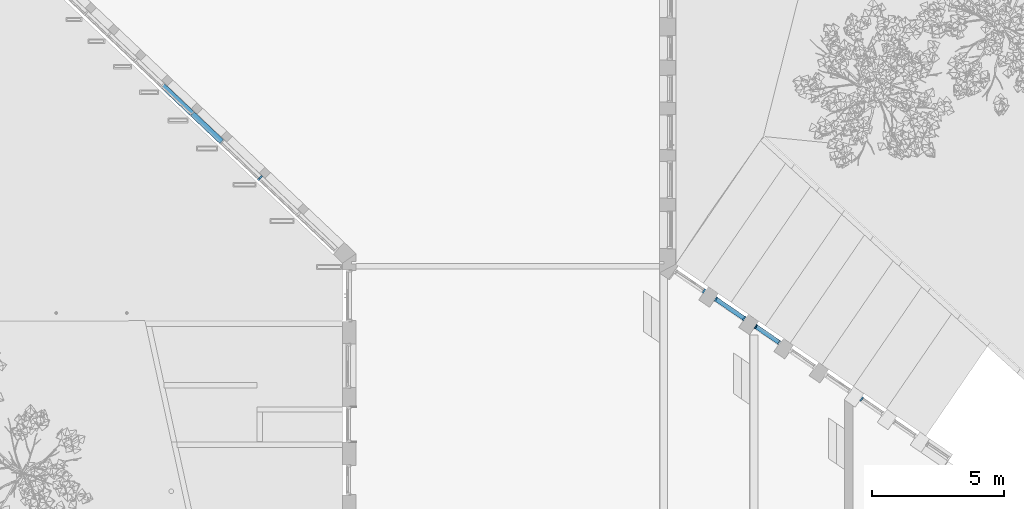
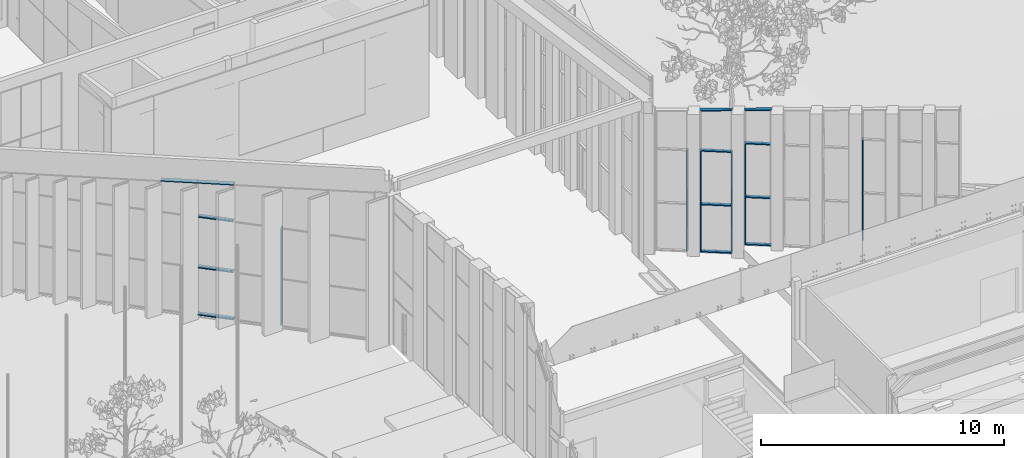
# One storey, part 8 of 246: 25 members, 5 elements without a shape of their own.
"""IFC2X3 building model written with IfcOpenShell, lengths in millimetres."""

import ifcopenshell
import ifcopenshell.guid

model = None  # the IFC model being written
_history = None  # IfcOwnerHistory: only IFC2X3 demands one
_inside = {}  # id of a spatial element -> (the spatial element, [elements in it])
_under = {}  # id of a project, library or spatial element -> (it, [spatial elements below it])
_declared = {}  # id of a project -> (the project, [libraries it declares])
_typed = {}  # id of a type object -> (the type object, [elements of that type])
_made_of = {}  # id of a material, layer set ... -> (it, [elements and type objects made of it])


def new_model(schema):
    """Start an empty IFC model of exactly this schema.

    Asked for "IFC4X3", IfcOpenShell would pick the latest addendum, in which some entities
    have other attributes; the version numbers below select the first issue.
    IFC2X3 requires an IfcOwnerHistory on every rooted entity: one is made here for all.
    """
    global model, _history
    if schema == "IFC4X3":
        model = ifcopenshell.file(schema_version=(4, 3, 0, 0))
    else:
        model = ifcopenshell.file(schema=schema)
    _inside.clear()
    _under.clear()
    _declared.clear()
    _typed.clear()
    _made_of.clear()
    _history = None
    if model.schema == "IFC2X3":
        org = make("IfcOrganization", Name="unknown")
        user = make(
            "IfcPersonAndOrganization",
            ThePerson=make("IfcPerson", FamilyName="unknown"),
            TheOrganization=org,
        )
        app = make(
            "IfcApplication",
            ApplicationDeveloper=org,
            Version="unknown",
            ApplicationFullName="unknown",
            ApplicationIdentifier="unknown",
        )
        _history = make(
            "IfcOwnerHistory",
            OwningUser=user,
            OwningApplication=app,
            ChangeAction="ADDED",
            CreationDate=0,
        )
    return model


def make(cls, **values):
    """One entity of the class cls with the attributes given. An attribute that is None is left unset."""
    return model.create_entity(
        cls, **{name: value for name, value in values.items() if value is not None}
    )


def entity(cls, *values):
    """Any entity or typed value of the class cls, its attributes in the order of the schema. None: left unset."""
    e = model.create_entity(cls)
    for i, value in enumerate(values):
        if value is not None:
            e[i] = value
    return e


def rooted(cls, **values):
    """An entity with a GlobalId (a new one), such as an element, a storey or a relation."""
    return make(cls, GlobalId=ifcopenshell.guid.new(), OwnerHistory=_history, **values)


def si_unit(unit_type, name, prefix=None):
    """IfcSIUnit, for example si_unit("LENGTHUNIT", "METRE", prefix="MILLI")."""
    return make("IfcSIUnit", UnitType=unit_type, Prefix=prefix, Name=name)


def converted_unit(unit_type, name, factor, base, dimensions=None, offset=None):
    """IfcConversionBasedUnit, such as the inch: factor (a typed value) times the base unit."""
    return make(
        "IfcConversionBasedUnit"
        if offset is None
        else "IfcConversionBasedUnitWithOffset",
        ConversionOffset=offset,
        Dimensions=None
        if dimensions is None
        else entity("IfcDimensionalExponents", *dimensions),
        UnitType=unit_type,
        Name=name,
        ConversionFactor=make(
            "IfcMeasureWithUnit", ValueComponent=factor, UnitComponent=base
        ),
    )


def derived_unit(unit_type, elements):
    """IfcDerivedUnit: a product of units, each with its exponent."""
    return make(
        "IfcDerivedUnit",
        Elements=[
            make("IfcDerivedUnitElement", Unit=unit, Exponent=power)
            for unit, power in elements
        ],
        UnitType=unit_type,
    )


def money_unit(currency):
    """IfcMonetaryUnit."""
    return make("IfcMonetaryUnit", Currency=currency)


def assignment(units):
    """IfcUnitAssignment: the units of a project."""
    return None if units is None else make("IfcUnitAssignment", Units=units)


def point(xyz):
    """IfcCartesianPoint."""
    return None if xyz is None else make("IfcCartesianPoint", Coordinates=xyz)


def direction(xyz):
    """IfcDirection."""
    return None if xyz is None else make("IfcDirection", DirectionRatios=xyz)


def frame(location, z_axis=None, x_axis=None):
    """IfcAxis2Placement3D, a coordinate frame: its origin and axes. An axis left out is left unset."""
    return make(
        "IfcAxis2Placement3D",
        Location=point(location),
        Axis=direction(z_axis),
        RefDirection=direction(x_axis),
    )


def origin_with_axes():
    """The frame at (0, 0, 0) with the z axis (0, 0, 1) and the x axis (1, 0, 0) written out."""
    return frame((0.0, 0.0, 0.0), z_axis=(0.0, 0.0, 1.0), x_axis=(1.0, 0.0, 0.0))


def place(relative_to, where):
    """IfcLocalPlacement: puts the frame where relative to a parent placement (None: the world)."""
    return make(
        "IfcLocalPlacement", PlacementRelTo=relative_to, RelativePlacement=where
    )


def context(
    kind, dimensions, precision=None, world=None, true_north=None, identifier=None
):
    """IfcGeometricRepresentationContext, for example the 3D "Model" context."""
    return make(
        "IfcGeometricRepresentationContext",
        ContextIdentifier=identifier,
        ContextType=kind,
        CoordinateSpaceDimension=dimensions,
        Precision=precision,
        WorldCoordinateSystem=world,
        TrueNorth=true_north,
    )


def subcontext(parent, identifier, kind, view, scale=None):
    """IfcGeometricRepresentationSubContext, for example "Body" below "Model"."""
    return make(
        "IfcGeometricRepresentationSubContext",
        ContextIdentifier=identifier,
        ContextType=kind,
        ParentContext=parent,
        TargetScale=scale,
        TargetView=view,
    )


def project(units=None, contexts=None):
    """IfcProject with its units and contexts."""
    return rooted(
        "IfcProject",
        Name="project",
        RepresentationContexts=contexts,
        UnitsInContext=assignment(units),
    )


def spatial(cls, under=None, at=None, **own):
    """A site, building, storey or space (cls), placed at a placement, below another one or the project."""
    s = rooted(cls, ObjectPlacement=at, **own)
    if under is not None:
        _under.setdefault(under.id(), (under, []))[1].append(s)
    return s


def faces_of(points, faces, orient=None, outer=None):
    """IfcFace entities. A face is a list of loops; a loop is a list of indices into points, from 0.

    orient and outer hold one flag for each loop. By default every Orientation is true, the
    first loop of a face is its IfcFaceOuterBound and the others are IfcFaceBound.
    """
    made = []
    for i, loops in enumerate(faces):
        bounds = []
        for j, loop in enumerate(loops):
            is_outer = j == 0 if outer is None else outer[i][j]
            bounds.append(
                make(
                    "IfcFaceOuterBound" if is_outer else "IfcFaceBound",
                    Bound=make("IfcPolyLoop", Polygon=[points[k] for k in loop]),
                    Orientation=True if orient is None else orient[i][j],
                )
            )
        made.append(make("IfcFace", Bounds=bounds))
    return made


def faceted_brep(points, faces, orient=None, outer=None, voids=None):
    """IfcFacetedBrep: a solid bounded by flat faces; with voids (closed shells), ...WithVoids."""
    shared = [point(p) for p in points]
    hull = make("IfcClosedShell", CfsFaces=faces_of(shared, faces, orient, outer))
    if voids is None:
        return make("IfcFacetedBrep", Outer=hull)
    return make(
        "IfcFacetedBrepWithVoids",
        Outer=hull,
        Voids=[
            make(cls, CfsFaces=faces_of(shared, fs, o, b)) for cls, fs, o, b in voids
        ],
    )


def shape(context_of_items, identifier, shape_type, items):
    """IfcShapeRepresentation: the items that make up one representation, for example the "Body"."""
    return make(
        "IfcShapeRepresentation",
        ContextOfItems=context_of_items,
        RepresentationIdentifier=identifier,
        RepresentationType=shape_type,
        Items=items,
    )


def source(mapping_origin, context_of_items, identifier, shape_type, items):
    """IfcRepresentationMap: a shape defined once, which mapped items show again and again."""
    return make(
        "IfcRepresentationMap",
        MappingOrigin=mapping_origin,
        MappedRepresentation=shape(context_of_items, identifier, shape_type, items),
    )


def transform(
    local_origin,
    x_axis=None,
    y_axis=None,
    z_axis=None,
    scale=None,
    scale2=None,
    scale3=None,
    uniform=True,
):
    """IfcCartesianTransformationOperator3D, or its non-uniform kind. x_axis, y_axis, z_axis: its Axis1, 2, 3."""
    if uniform:
        return make(
            "IfcCartesianTransformationOperator3D",
            Axis1=direction(x_axis),
            Axis2=direction(y_axis),
            LocalOrigin=point(local_origin),
            Scale=scale,
            Axis3=direction(z_axis),
        )
    return make(
        "IfcCartesianTransformationOperator3DnonUniform",
        Axis1=direction(x_axis),
        Axis2=direction(y_axis),
        LocalOrigin=point(local_origin),
        Scale=scale,
        Axis3=direction(z_axis),
        Scale2=scale2,
        Scale3=scale3,
    )


def mapped(mapping_source, mapping_target):
    """IfcMappedItem: shows the shape of a source again, moved by a transform."""
    return make(
        "IfcMappedItem", MappingSource=mapping_source, MappingTarget=mapping_target
    )


def material(Name=None, Category=None):
    """IfcMaterial."""
    return make("IfcMaterial", Name=Name, Category=Category)


def made_of(thing, what):
    """Note that an element or type object is made of a material, layer set ...; save() writes the relation."""
    if what is not None:
        _made_of.setdefault(what.id(), (what, []))[1].append(thing)
    return thing


def type_object(cls, material=None, **own):
    """A type object (cls), such as IfcWallType, which elements share."""
    return made_of(rooted(cls, **own), material)


def element(
    cls,
    number,
    at=None,
    inside=None,
    cuts=None,
    type_object=None,
    material=None,
    context=None,
    identifier="Body",
    shape_type=None,
    held_by="IfcProductDefinitionShape",
    body=None,
    shapes=None,
    **own,
):
    """One element of the class cls, such as IfcWall. Its Tag is "e" and its number.

    at: its placement. inside: the storey or other place that contains it. cuts: it is an
    opening in that element (IfcRelVoidsElement). A single representation is given by context,
    identifier, shape_type and body (its items); several are given by shapes. held_by: the class
    of the entity that holds the representations. save() writes the other relations.
    """
    e = rooted(cls, Tag="e%d" % number, ObjectPlacement=at, **own)
    if body is not None:
        shapes = [shape(context, identifier, shape_type, body)]
    if shapes is not None:
        e.Representation = make(held_by, Representations=shapes)
    if inside is not None:
        _inside.setdefault(inside.id(), (inside, []))[1].append(e)
    if cuts is not None:
        rooted(
            "IfcRelVoidsElement", RelatingBuildingElement=cuts, RelatedOpeningElement=e
        )
    if type_object is not None:
        _typed.setdefault(type_object.id(), (type_object, []))[1].append(e)
    return made_of(e, material)


def aggregate(whole, parts):
    """IfcRelAggregates: a whole, such as a stair, and the parts it consists of."""
    return rooted("IfcRelAggregates", RelatingObject=whole, RelatedObjects=parts)


def save(model, path):
    """Write the relations noted so far, then the file.

    IfcRelAggregates (storeys below a building ...), IfcRelContainedInSpatialStructure (elements
    in a storey), IfcRelDefinesByType, IfcRelAssociatesMaterial and IfcRelDeclares: one each for
    every whole, place, type object, material and project.
    """
    for whole, parts in _under.values():
        aggregate(whole, parts)
    for where, things in _inside.values():
        rooted(
            "IfcRelContainedInSpatialStructure",
            RelatedElements=things,
            RelatingStructure=where,
        )
    for kind, things in _typed.values():
        rooted("IfcRelDefinesByType", RelatedObjects=things, RelatingType=kind)
    for what, things in _made_of.values():
        rooted("IfcRelAssociatesMaterial", RelatedObjects=things, RelatingMaterial=what)
    for by, libraries in _declared.values():
        rooted("IfcRelDeclares", RelatingContext=by, RelatedDefinitions=libraries)
    model.write(path)


model = new_model("IFC2X3")

# Units and contexts
model_context = context("Model", 3, precision=0.01, world=origin_with_axes(), true_north=direction((0.0, 1.0)))
body_context = subcontext(model_context, "Body", "Model", "MODEL_VIEW")
ifc_project = project(units=[si_unit("LENGTHUNIT", "METRE", prefix="MILLI"), si_unit("AREAUNIT", "SQUARE_METRE"), si_unit("VOLUMEUNIT", "CUBIC_METRE"), converted_unit("PLANEANGLEUNIT", "DEGREE", entity("IfcPlaneAngleMeasure", 0.0174532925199), si_unit("PLANEANGLEUNIT", "RADIAN"), dimensions=[0, 0, 0, 0, 0, 0, 0]), si_unit("SOLIDANGLEUNIT", "STERADIAN"), money_unit("EUR"), converted_unit("TIMEUNIT", "Year", entity("IfcTimeMeasure", 31556926.0), si_unit("TIMEUNIT", "SECOND"), dimensions=[0, 0, 1, 0, 0, 0, 0]), si_unit("MASSUNIT", "GRAM", prefix="KILO"), si_unit("THERMODYNAMICTEMPERATUREUNIT", "DEGREE_CELSIUS"), si_unit("LUMINOUSINTENSITYUNIT", "LUMEN"), si_unit("ENERGYUNIT", "JOULE", prefix="MEGA"), derived_unit("THERMALCONDUCTANCEUNIT", [(si_unit("POWERUNIT", "WATT"), 1), (si_unit("LENGTHUNIT", "METRE"), -1), (si_unit("THERMODYNAMICTEMPERATUREUNIT", "KELVIN"), -1)]), derived_unit("SPECIFICHEATCAPACITYUNIT", [(si_unit("ENERGYUNIT", "JOULE"), 1), (si_unit("MASSUNIT", "GRAM", prefix="KILO"), -1), (si_unit("THERMODYNAMICTEMPERATUREUNIT", "KELVIN"), -1)]), derived_unit("MASSDENSITYUNIT", [(si_unit("MASSUNIT", "GRAM", prefix="KILO"), 1), (si_unit("VOLUMEUNIT", "CUBIC_METRE"), -1)])], contexts=[model_context])

# Site, building, storey
site_placement = place(None, origin_with_axes())
site = spatial("IfcSite", under=ifc_project, at=site_placement, Name="L.Koidula tn 11b", CompositionType="ELEMENT")
building_placement = place(site_placement, origin_with_axes())
building = spatial("IfcBuilding", under=site, at=building_placement, Name="Rakvere Riigigümnaasium", CompositionType="ELEMENT")
storey_placement = place(building_placement, origin_with_axes())
storey = spatial("IfcBuildingStorey", under=building, at=storey_placement, Name="1.korrus 0,00", CompositionType="ELEMENT", Elevation=0.0)

# Curtain wall, member
curtain_wall_type = type_object("IfcCurtainWallType", Name="Curtain Wall Type", PredefinedType="NOTDEFINED")
curtain_wall_1_placement = place(storey_placement, frame((48188.9005026, 43426.6609741, 465.0), z_axis=(0.0, 0.0, 1.0), x_axis=(1.0, 0.0, 0.0)))
curtain_wall_1 = element("IfcCurtainWall", 1, at=curtain_wall_1_placement, inside=storey, type_object=curtain_wall_type, Name="KLF-06-29")
ifc_material = material(Name="Alumiiniumprofiil (RAL 7021)")
member_type_1 = type_object("IfcMemberType", Name="Boundary Frame 50 x 170", PredefinedType="MULLION")
shared_shape_1 = source(origin_with_axes(), body_context, "Body", "Brep", [
    faceted_brep([(-37.0, -26.0, 2700.00000012), (-50.0, -26.0, 2700.00000012), (-50.0, -124.0, 2700.00000012), (0.0, -124.0, 2700.00000012), (0.0, 46.0, 2700.00000012), (-50.0, 46.0, 2700.00000012), (-50.0, 26.0, 2700.00000012), (-37.0, 26.0, 2700.00000012), (-37.0, -26.0, -5.18836085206e-07), (-50.0, -26.0, -5.18836307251e-07), (-50.0, -124.0, -5.18836307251e-07), (0.0, -124.0, -5.18836307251e-07), (0.0, 46.0, -5.18836307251e-07), (-50.0, 46.0, -5.18836307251e-07), (-50.0, 26.0, -5.18836307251e-07), (-37.0, 26.0, -5.18836085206e-07)], [[[0, 1, 2, 3, 4, 5, 6, 7]], [[0, 8, 9, 1]], [[9, 10, 2, 1]], [[10, 11, 3, 2]], [[11, 12, 4, 3]], [[12, 13, 5, 4]], [[6, 5, 13, 14]], [[14, 15, 7, 6]], [[7, 15, 8, 0]], [[8, 15, 14, 13, 12, 11, 10, 9]]]),
])
member_1_placement = place(curtain_wall_1_placement, frame((552.526325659, -378.965134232, 2400.0), z_axis=(6.40241900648e-09, -4.39127253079e-09, 1.0), x_axis=(-0.824666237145, 0.565619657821, 7.76364885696e-09)))
member_1 = element("IfcMember", 2, at=member_1_placement, type_object=member_type_1, material=ifc_material, Name="KLF-06-48-Profiilid", ObjectType="MULLION", context=body_context, shape_type="MappedRepresentation", body=[
    mapped(shared_shape_1, transform((0.0, 0.0, 0.0), x_axis=(-1.0, 0.0, 7.76364885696e-09), y_axis=(0.0, -1.0, 0.0), z_axis=(7.76364885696e-09, 0.0, 1.0))),
])

curtain_wall_2_placement = place(storey_placement, frame((49706.2862445, 42385.9208959, 465.0), z_axis=(0.0, 0.0, 1.0), x_axis=(1.0, 0.0, 0.0)))
curtain_wall_2 = element("IfcCurtainWall", 3, at=curtain_wall_2_placement, inside=storey, type_object=curtain_wall_type, Name="KLF-06-28")
member_2_placement = place(curtain_wall_2_placement, frame((552.526402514, -378.965186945, 2400.0), z_axis=(-1.36704027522e-08, 9.37621404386e-09, 1.0), x_axis=(-0.824666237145, 0.565619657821, -1.6576890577e-08)))
member_2 = element("IfcMember", 4, at=member_2_placement, type_object=member_type_1, material=ifc_material, Name="KLF-06-46-Profiilid", ObjectType="MULLION", context=body_context, shape_type="MappedRepresentation", body=[
    mapped(shared_shape_1, transform((0.0, 0.0, 0.0), x_axis=(-1.0, 0.0, -1.6576890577e-08), y_axis=(0.0, -1.0, 0.0), z_axis=(-1.6576890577e-08, 0.0, 1.0))),
])

curtain_wall_3_placement = place(storey_placement, frame((51132.8497103, 41407.4731801, 929.821783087), z_axis=(0.0, 0.0, 1.0), x_axis=(1.0, 0.0, 0.0)))
curtain_wall_3 = element("IfcCurtainWall", 5, at=curtain_wall_3_placement, inside=storey, type_object=curtain_wall_type, Name="KLF-06-27")
member_3_placement = place(curtain_wall_3_placement, frame((-461.812964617, 316.746920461, 5100.0000654), z_axis=(-3.11455329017e-08, 2.1362004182e-08, -1.0), x_axis=(0.824666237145, -0.565619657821, -3.77674389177e-08)))
member_3 = element("IfcMember", 6, at=member_3_placement, type_object=member_type_1, material=ifc_material, Name="KLF-06-49-Profiilid", ObjectType="MULLION", context=body_context, shape_type="MappedRepresentation", body=[
    mapped(shared_shape_1, transform((0.0, 0.0, 0.0), x_axis=(-1.0, 0.0, 3.77674387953e-08), y_axis=(0.0, -1.0, 0.0), z_axis=(3.77674387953e-08, 0.0, 1.0))),
])

# Member
shared_shape_2 = source(origin_with_axes(), body_context, "Body", "Brep", [
    faceted_brep([(-37.0, -26.0, 2400.00000019), (-50.0, -26.0, 2400.00000019), (-50.0, -124.0, 2400.00000019), (0.0, -124.0, 2400.00000019), (0.0, 46.0, 2400.00000019), (-50.0, 46.0, 2400.00000019), (-50.0, 26.0, 2400.00000019), (-37.0, 26.0, 2400.00000019), (-37.0, -26.0, 37.0), (-50.0, -26.0, 50.0), (-50.0, -124.0, 50.0), (0.0, -124.0, 0.0), (0.0, 46.0, 0.0), (-50.0, 46.0, 50.0), (-50.0, 26.0, 50.0), (-37.0, 26.0, 37.0)], [[[0, 1, 2, 3, 4, 5, 6, 7]], [[0, 8, 9, 1]], [[9, 10, 2, 1]], [[2, 10, 11, 3]], [[3, 11, 12, 4]], [[4, 12, 13, 5]], [[6, 5, 13, 14]], [[14, 15, 7, 6]], [[7, 15, 8, 0]], [[8, 15, 14, 13, 12, 11, 10, 9]]]),
])
member_4_placement = place(curtain_wall_1_placement, frame((552.526325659, -378.965134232, 0.0), z_axis=(0.0, 0.0, 1.0), x_axis=(-0.824666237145, 0.565619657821, 0.0)))
member_4 = element("IfcMember", 7, at=member_4_placement, type_object=member_type_1, material=ifc_material, Name="KLF-06-47-Profiilid", ObjectType="MULLION", context=body_context, shape_type="MappedRepresentation", body=[
    mapped(shared_shape_2, transform((0.0, 0.0, 0.0), x_axis=(-1.0, 0.0, 0.0), y_axis=(0.0, -1.0, 0.0), z_axis=(0.0, 0.0, 1.0))),
])

aggregate(curtain_wall_1, [member_1, member_4])

member_5_placement = place(curtain_wall_2_placement, frame((552.526402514, -378.965186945, 0.0), z_axis=(0.0, 0.0, 1.0), x_axis=(-0.824666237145, 0.565619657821, 0.0)))
member_5 = element("IfcMember", 8, at=member_5_placement, type_object=member_type_1, material=ifc_material, Name="KLF-06-45-Profiilid", ObjectType="MULLION", context=body_context, shape_type="MappedRepresentation", body=[
    mapped(shared_shape_2, transform((0.0, 0.0, 0.0), x_axis=(-1.0, 0.0, 0.0), y_axis=(0.0, -1.0, 0.0), z_axis=(0.0, 0.0, 1.0))),
])

shared_shape_3 = source(origin_with_axes(), body_context, "Body", "Brep", [
    faceted_brep([(-37.0, -26.0, 2362.99999837), (-50.0, -26.0, 2349.99999779), (-50.0, -124.0, 2349.99999779), (0.0, -124.0, 2400.0), (0.0, 46.0, 2400.0), (-50.0, 46.0, 2349.99999779), (-50.0, 26.0, 2349.99999779), (-37.0, 26.0, 2362.99999837), (-37.0, -26.0, -1.22574839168e-07), (-50.0, -26.0, -1.22575061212e-07), (-50.0, -124.0, -1.22575061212e-07), (0.0, -124.0, -1.22575061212e-07), (0.0, 46.0, -1.22575061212e-07), (-50.0, 46.0, -1.22575061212e-07), (-50.0, 26.0, -1.22575061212e-07), (-37.0, 26.0, -1.22574839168e-07)], [[[0, 1, 2, 3, 4, 5, 6, 7]], [[0, 8, 9, 1]], [[9, 10, 2, 1]], [[10, 11, 3, 2]], [[11, 12, 4, 3]], [[12, 13, 5, 4]], [[6, 5, 13, 14]], [[14, 15, 7, 6]], [[7, 15, 8, 0]], [[8, 15, 14, 13, 12, 11, 10, 9]]]),
])
member_6_placement = place(curtain_wall_3_placement, frame((-461.81304871, 316.746978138, 2400.0000654), z_axis=(-3.50387235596e-08, 2.40322570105e-08, -1.0), x_axis=(0.824666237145, -0.565619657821, -4.24883692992e-08)))
member_6 = element("IfcMember", 9, at=member_6_placement, type_object=member_type_1, material=ifc_material, Name="KLF-06-50-Profiilid", ObjectType="MULLION", context=body_context, shape_type="MappedRepresentation", body=[
    mapped(shared_shape_3, transform((0.0, 0.0, 0.0), x_axis=(-1.0, 0.0, 4.24883691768e-08), y_axis=(0.0, -1.0, 0.0), z_axis=(4.24883691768e-08, 0.0, 1.0))),
])

# Curtain wall, members
curtain_wall_4_placement = place(storey_placement, frame((33997.0353268, 45217.6604975, 0.0), z_axis=(0.0, 0.0, 1.0), x_axis=(1.0, 0.0, 0.0)))
curtain_wall_4 = element("IfcCurtainWall", 10, at=curtain_wall_4_placement, inside=storey, type_object=curtain_wall_type, Name="KLF-02")
member_type_2 = type_object("IfcMemberType", Name="Mullion Frame 50 x 210", PredefinedType="MULLION")
shared_shape_4 = source(origin_with_axes(), body_context, "Body", "Brep", [
    faceted_brep([(12.0, -26.0, 2550.0), (12.0, 26.0, 2550.0), (25.0, 26.0, 2550.0), (25.0, 56.0, 2550.0), (-25.0, 56.0, 2550.0), (-25.0, 26.0, 2550.0), (-12.0, 26.0, 2550.0), (-12.0, -26.0, 2550.0), (-25.0, -26.0, 2550.0), (-25.0, -154.0, 2550.0), (25.0, -154.0, 2550.0), (25.0, -26.0, 2550.0), (12.0, -26.0, 0.0), (12.0, 26.0, 0.0), (25.0, 26.0, 0.0), (25.0, 56.0, 0.0), (-25.0, 56.0, 0.0), (-25.0, 26.0, 0.0), (-12.0, 26.0, 0.0), (-12.0, -26.0, 0.0), (-25.0, -26.0, 0.0), (-25.0, -154.0, 0.0), (25.0, -154.0, 0.0), (25.0, -26.0, 0.0)], [[[0, 1, 2, 3, 4, 5, 6, 7, 8, 9, 10, 11]], [[0, 12, 13, 1]], [[1, 13, 14, 2]], [[14, 15, 3, 2]], [[3, 15, 16, 4]], [[17, 5, 4, 16]], [[5, 17, 18, 6]], [[7, 6, 18, 19]], [[8, 7, 19, 20]], [[8, 20, 21, 9]], [[9, 21, 22, 10]], [[11, 10, 22, 23]], [[11, 23, 12, 0]], [[13, 12, 23, 22, 21, 20, 19, 18, 17, 16, 15, 14]]]),
])
member_7_placement = place(curtain_wall_4_placement, frame((-2177.88068754, 2063.21005011, 2400.00031279), z_axis=(0.0, 0.0, 1.0), x_axis=(0.725960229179, -0.687736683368, 0.0)))
member_7 = element("IfcMember", 11, at=member_7_placement, type_object=member_type_2, material=ifc_material, Name="KLF-10-Profiilid", ObjectType="MULLION", context=body_context, shape_type="MappedRepresentation", body=[
    mapped(shared_shape_4, transform((0.0, 0.0, 0.0), x_axis=(-1.0, 0.0, 0.0), y_axis=(0.0, -1.0, 0.0), z_axis=(0.0, 0.0, 1.0))),
])
shared_shape_5 = source(origin_with_axes(), body_context, "Body", "Brep", [
    faceted_brep([(12.0, -26.0, 2400.00031279), (12.0, 26.0, 2400.00031279), (25.0, 26.0, 2400.00031279), (25.0, 56.0, 2400.00031279), (-25.0, 56.0, 2400.00031279), (-25.0, 26.0, 2400.00031279), (-12.0, 26.0, 2400.00031279), (-12.0, -26.0, 2400.00031279), (-25.0, -26.0, 2400.00031279), (-25.0, -154.0, 2400.00031279), (25.0, -154.0, 2400.00031279), (25.0, -26.0, 2400.00031279), (12.0, -26.0, 50.0), (12.0, 26.0, 50.0), (25.0, 26.0, 50.0), (25.0, 56.0, 50.0), (-25.0, 56.0, 50.0), (-25.0, 26.0, 50.0), (-12.0, 26.0, 50.0), (-12.0, -26.0, 50.0), (-25.0, -26.0, 50.0), (-25.0, -154.0, 50.0), (25.0, -154.0, 50.0), (25.0, -26.0, 50.0)], [[[0, 1, 2, 3, 4, 5, 6, 7, 8, 9, 10, 11]], [[0, 12, 13, 1]], [[1, 13, 14, 2]], [[14, 15, 3, 2]], [[4, 3, 15, 16]], [[17, 5, 4, 16]], [[5, 17, 18, 6]], [[7, 6, 18, 19]], [[8, 7, 19, 20]], [[8, 20, 21, 9]], [[10, 9, 21, 22]], [[11, 10, 22, 23]], [[11, 23, 12, 0]], [[13, 12, 23, 22, 21, 20, 19, 18, 17, 16, 15, 14]]]),
])
member_8_placement = place(curtain_wall_4_placement, frame((-2177.88068754, 2063.21005011, 0.0), z_axis=(0.0, 0.0, 1.0), x_axis=(0.725960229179, -0.687736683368, 0.0)))
member_8 = element("IfcMember", 12, at=member_8_placement, type_object=member_type_2, material=ifc_material, Name="KLF-09-Profiilid", ObjectType="MULLION", context=body_context, shape_type="MappedRepresentation", body=[
    mapped(shared_shape_5, transform((0.0, 0.0, 0.0), x_axis=(-1.0, 0.0, 0.0), y_axis=(0.0, -1.0, 0.0), z_axis=(0.0, 0.0, 1.0))),
])

# Member
shared_shape_6 = source(origin_with_axes(), body_context, "Body", "Brep", [
    faceted_brep([(37.0, -26.0, 2400.0), (37.0, 26.0, 2400.0), (50.0, 26.0, 2400.0), (50.0, 46.0, 2400.0), (0.0, 46.0, 2400.0), (0.0, -124.0, 2400.0), (50.0, -124.0, 2400.0), (50.0, -26.0, 2400.0), (37.0, -26.0, 37.0), (37.0, 26.0, 37.0), (50.0, 26.0, 50.0), (50.0, 46.0, 50.0), (0.0, 46.0, 0.0), (0.0, -124.0, 0.0), (50.0, -124.0, 50.0), (50.0, -26.0, 50.0)], [[[0, 1, 2, 3, 4, 5, 6, 7]], [[1, 0, 8, 9]], [[10, 2, 1, 9]], [[2, 10, 11, 3]], [[4, 3, 11, 12]], [[5, 4, 12, 13]], [[6, 5, 13, 14]], [[15, 7, 6, 14]], [[0, 7, 15, 8]], [[8, 15, 14, 13, 12, 11, 10, 9]]]),
])
member_9_placement = place(curtain_wall_2_placement, frame((-552.526384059, 378.965174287, 0.0), z_axis=(0.0, 0.0, 1.0), x_axis=(-0.824666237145, 0.565619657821, 0.0)))
member_9 = element("IfcMember", 13, at=member_9_placement, type_object=member_type_1, material=ifc_material, Name="KLF-06-51-Profiilid", ObjectType="MULLION", context=body_context, shape_type="MappedRepresentation", body=[
    mapped(shared_shape_6, transform((0.0, 0.0, 0.0), x_axis=(-1.0, 0.0, 0.0), y_axis=(0.0, -1.0, 0.0), z_axis=(0.0, 0.0, 1.0))),
])

# Curtain wall, member
curtain_wall_5_placement = place(storey_placement, frame((55097.3440674, 38688.315244, 1395.00000109), z_axis=(0.0, 0.0, 1.0), x_axis=(1.0, 0.0, 0.0)))
curtain_wall_5 = element("IfcCurtainWall", 14, at=curtain_wall_5_placement, inside=storey, type_object=curtain_wall_type, Name="KLF-06-24")
member_10_placement = place(curtain_wall_5_placement, frame((-418.351684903, 286.937825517, 0.0), z_axis=(0.0, 0.0, 1.0), x_axis=(-0.824666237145, 0.565619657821, 0.0)))
member_10 = element("IfcMember", 15, at=member_10_placement, type_object=member_type_1, material=ifc_material, Name="KLF-06-47-Profiilid", ObjectType="MULLION", context=body_context, shape_type="MappedRepresentation", body=[
    mapped(shared_shape_6, transform((0.0, 0.0, 0.0), x_axis=(-1.0, 0.0, 0.0), y_axis=(0.0, -1.0, 0.0), z_axis=(0.0, 0.0, 1.0))),
])

# Member
shared_shape_7 = source(origin_with_axes(), body_context, "Body", "Brep", [
    faceted_brep([(37.0, -26.0, 2700.0), (37.0, 26.0, 2700.0), (50.0, 26.0, 2700.0), (50.0, 46.0, 2700.0), (0.0, 46.0, 2700.0), (0.0, -124.0, 2700.0), (50.0, -124.0, 2700.0), (50.0, -26.0, 2700.0), (37.0, -26.0, 0.0), (37.0, 26.0, 0.0), (50.0, 26.0, 0.0), (50.0, 46.0, 0.0), (0.0, 46.0, 0.0), (0.0, -124.0, 0.0), (50.0, -124.0, 0.0), (50.0, -26.0, 0.0)], [[[0, 1, 2, 3, 4, 5, 6, 7]], [[1, 0, 8, 9]], [[10, 2, 1, 9]], [[2, 10, 11, 3]], [[12, 4, 3, 11]], [[13, 5, 4, 12]], [[14, 6, 5, 13]], [[15, 7, 6, 14]], [[0, 7, 15, 8]], [[8, 15, 14, 13, 12, 11, 10, 9]]]),
])
member_11_placement = place(curtain_wall_2_placement, frame((-552.526384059, 378.965174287, 2400.0), z_axis=(0.0, 0.0, 1.0), x_axis=(-0.824666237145, 0.565619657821, 0.0)))
member_11 = element("IfcMember", 16, at=member_11_placement, type_object=member_type_1, material=ifc_material, Name="KLF-06-50-Profiilid", ObjectType="MULLION", context=body_context, shape_type="MappedRepresentation", body=[
    mapped(shared_shape_7, transform((0.0, 0.0, 0.0), x_axis=(-1.0, 0.0, 0.0), y_axis=(0.0, -1.0, 0.0), z_axis=(0.0, 0.0, 1.0))),
])

member_12_placement = place(curtain_wall_5_placement, frame((-418.351684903, 286.937825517, 2400.00005693), z_axis=(0.0, 0.0, 1.0), x_axis=(-0.824666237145, 0.565619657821, 0.0)))
member_12 = element("IfcMember", 17, at=member_12_placement, type_object=member_type_1, material=ifc_material, Name="KLF-06-46-Profiilid", ObjectType="MULLION", context=body_context, shape_type="MappedRepresentation", body=[
    mapped(shared_shape_7, transform((0.0, 0.0, 0.0), x_axis=(-1.0, 0.0, 0.0), y_axis=(0.0, -1.0, 0.0), z_axis=(0.0, 0.0, 1.0))),
])

aggregate(curtain_wall_5, [member_10, member_12])

member_type_3 = type_object("IfcMemberType", Name="Transom Frame 50 x 170", PredefinedType="MULLION")
shared_shape_8 = source(origin_with_axes(), body_context, "Body", "Brep", [
    faceted_brep([(12.0, -26.0, 1069.9997261), (12.0, 26.0, 1069.99972784), (25.0, 26.0, 1069.99972784), (25.0, 46.0, 1069.99972851), (-25.0, 46.0, 1069.99972851), (-25.0, 26.0, 1069.99972784), (-12.0, 26.0, 1069.99972784), (-12.0, -26.0, 1069.9997261), (-25.0, -26.0, 1069.9997261), (-25.0, -124.0, 1069.99972282), (25.0, -124.0, 1069.99972282), (25.0, -26.0, 1069.9997261), (12.0, -26.0, 50.000000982), (12.0, 26.0, 49.999999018), (25.0, 26.0, 49.999999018), (25.0, 46.0, 49.9999982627), (-25.0, 46.0, 49.9999982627), (-25.0, 26.0, 49.999999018), (-12.0, 26.0, 49.999999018), (-12.0, -26.0, 50.000000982), (-25.0, -26.0, 50.000000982), (-25.0, -124.0, 50.0000046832), (25.0, -124.0, 50.0000046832), (25.0, -26.0, 50.000000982)], [[[0, 1, 2, 3, 4, 5, 6, 7, 8, 9, 10, 11]], [[0, 12, 13, 1]], [[1, 13, 14, 2]], [[14, 15, 3, 2]], [[4, 3, 15, 16]], [[17, 5, 4, 16]], [[5, 17, 18, 6]], [[7, 6, 18, 19]], [[8, 7, 19, 20]], [[8, 20, 21, 9]], [[10, 9, 21, 22]], [[11, 10, 22, 23]], [[11, 23, 12, 0]], [[13, 12, 23, 22, 21, 20, 19, 18, 17, 16, 15, 14]]]),
])
member_13_placement = place(curtain_wall_3_placement, frame((-461.812964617, 316.746920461, 5100.0000654), z_axis=(0.824666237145, -0.565619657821, 0.0), x_axis=(0.0, 0.0, 1.0)))
member_13 = element("IfcMember", 18, at=member_13_placement, type_object=member_type_3, material=ifc_material, Name="KLF-06-27-Profiilid", ObjectType="MULLION", context=body_context, shape_type="MappedRepresentation", body=[
    mapped(shared_shape_8, transform((0.0, 0.0, 0.0), x_axis=(-1.0, 0.0, 0.0), y_axis=(0.0, -1.0, 0.0), z_axis=(0.0, 0.0, 1.0))),
])

member_14_placement = place(curtain_wall_3_placement, frame((-461.81304871, 316.746978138, 2400.0000654), z_axis=(0.824666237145, -0.565619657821, 0.0), x_axis=(0.0, 0.0, 1.0)))
member_14 = element("IfcMember", 19, at=member_14_placement, type_object=member_type_3, material=ifc_material, Name="KLF-06-27-Profiilid", ObjectType="MULLION", context=body_context, shape_type="MappedRepresentation", body=[
    mapped(shared_shape_8, transform((0.0, 0.0, 0.0), x_axis=(-1.0, 0.0, 0.0), y_axis=(0.0, -1.0, 0.0), z_axis=(0.0, 0.0, 1.0))),
])

member_type_4 = type_object("IfcMemberType", Name="Transom Frame 50 x 210", PredefinedType="MULLION")
shared_shape_9 = source(origin_with_axes(), body_context, "Body", "Brep", [
    faceted_brep([(12.0, -26.0, 1525.0), (12.0, 26.0, 1525.0), (25.0, 26.0, 1525.0), (25.0, 56.0, 1525.0), (-25.0, 56.0, 1525.0), (-25.0, 26.0, 1525.0), (-12.0, 26.0, 1525.0), (-12.0, -26.0, 1525.0), (-25.0, -26.0, 1525.0), (-25.0, -154.0, 1525.0), (25.0, -154.0, 1525.0), (25.0, -26.0, 1525.0), (12.0, -26.0, 25.0), (12.0, 26.0, 25.0), (25.0, 26.0, 25.0), (25.0, 56.0, 25.0), (-25.0, 56.0, 25.0), (-25.0, 26.0, 25.0), (-12.0, 26.0, 25.0), (-12.0, -26.0, 25.0), (-25.0, -26.0, 25.0), (-25.0, -154.0, 25.0), (25.0, -154.0, 25.0), (25.0, -26.0, 25.0)], [[[0, 1, 2, 3, 4, 5, 6, 7, 8, 9, 10, 11]], [[0, 12, 13, 1]], [[1, 13, 14, 2]], [[14, 15, 3, 2]], [[4, 3, 15, 16]], [[17, 5, 4, 16]], [[5, 17, 18, 6]], [[7, 6, 18, 19]], [[8, 7, 19, 20]], [[8, 20, 21, 9]], [[10, 9, 21, 22]], [[11, 10, 22, 23]], [[11, 23, 12, 0]], [[13, 12, 23, 22, 21, 20, 19, 18, 17, 16, 15, 14]]]),
])
member_15_placement = place(curtain_wall_4_placement, frame((-3629.80114589, 3438.68341684, 4950.00031279), z_axis=(-0.725960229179, 0.687736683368, 0.0), x_axis=(0.0, 0.0, 1.0)))
member_15 = element("IfcMember", 20, at=member_15_placement, type_object=member_type_4, material=ifc_material, Name="KLF-42-Profiilid", ObjectType="MULLION", context=body_context, shape_type="MappedRepresentation", body=[
    mapped(shared_shape_9, transform((0.0, 0.0, 0.0), x_axis=(-1.0, 0.0, 0.0), y_axis=(0.0, -1.0, 0.0), z_axis=(0.0, 0.0, 1.0))),
])

member_16_placement = place(curtain_wall_4_placement, frame((-3629.80114589, 3438.68341684, 2400.00031279), z_axis=(-0.725960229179, 0.687736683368, 0.0), x_axis=(0.0, 0.0, 1.0)))
member_16 = element("IfcMember", 21, at=member_16_placement, type_object=member_type_4, material=ifc_material, Name="KLF-24-Profiilid", ObjectType="MULLION", context=body_context, shape_type="MappedRepresentation", body=[
    mapped(shared_shape_9, transform((0.0, 0.0, 0.0), x_axis=(-1.0, 0.0, 0.0), y_axis=(0.0, -1.0, 0.0), z_axis=(0.0, 0.0, 1.0))),
])

shared_shape_10 = source(origin_with_axes(), body_context, "Body", "Brep", [
    faceted_brep([(12.0, -26.0, 1289.99984912), (12.0, 26.0, 1289.99984969), (25.0, 26.0, 1289.99984969), (25.0, 46.0, 1289.99984991), (-25.0, 46.0, 1289.99984991), (-25.0, 26.0, 1289.99984969), (-12.0, 26.0, 1289.99984969), (-12.0, -26.0, 1289.99984912), (-25.0, -26.0, 1289.99984912), (-25.0, -124.0, 1289.99984804), (25.0, -124.0, 1289.99984804), (25.0, -26.0, 1289.99984912), (12.0, -26.0, 50.0000010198), (12.0, 26.0, 49.9999989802), (25.0, 26.0, 49.9999989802), (25.0, 46.0, 49.9999981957), (-25.0, 46.0, 49.9999981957), (-25.0, 26.0, 49.9999989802), (-12.0, 26.0, 49.9999989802), (-12.0, -26.0, 50.0000010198), (-25.0, -26.0, 50.0000010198), (-25.0, -124.0, 50.0000048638), (25.0, -124.0, 50.0000048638), (25.0, -26.0, 50.0000010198)], [[[0, 1, 2, 3, 4, 5, 6, 7, 8, 9, 10, 11]], [[0, 12, 13, 1]], [[1, 13, 14, 2]], [[14, 15, 3, 2]], [[4, 3, 15, 16]], [[17, 5, 4, 16]], [[5, 17, 18, 6]], [[7, 6, 18, 19]], [[8, 7, 19, 20]], [[8, 20, 21, 9]], [[10, 9, 21, 22]], [[11, 10, 22, 23]], [[11, 23, 12, 0]], [[13, 12, 23, 22, 21, 20, 19, 18, 17, 16, 15, 14]]]),
])
member_17_placement = place(curtain_wall_2_placement, frame((-552.526384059, 378.965174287, 2400.0), z_axis=(0.824666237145, -0.565619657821, 0.0), x_axis=(0.0, 0.0, 1.0)))
member_17 = element("IfcMember", 22, at=member_17_placement, type_object=member_type_3, material=ifc_material, Name="KLF-06-28-Profiilid", ObjectType="MULLION", context=body_context, shape_type="MappedRepresentation", body=[
    mapped(shared_shape_10, transform((0.0, 0.0, 0.0), x_axis=(-1.0, 0.0, 0.0), y_axis=(0.0, -1.0, 0.0), z_axis=(0.0, 0.0, 1.0))),
])

member_18_placement = place(curtain_wall_2_placement, frame((-552.526384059, 378.965174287, 5100.0), z_axis=(0.824666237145, -0.565619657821, 0.0), x_axis=(0.0, 0.0, 1.0)))
member_18 = element("IfcMember", 23, at=member_18_placement, type_object=member_type_3, material=ifc_material, Name="KLF-06-28-Profiilid", ObjectType="MULLION", context=body_context, shape_type="MappedRepresentation", body=[
    mapped(shared_shape_10, transform((0.0, 0.0, 0.0), x_axis=(-1.0, 0.0, 0.0), y_axis=(0.0, -1.0, 0.0), z_axis=(0.0, 0.0, 1.0))),
])

shared_shape_11 = source(origin_with_axes(), body_context, "Body", "Brep", [
    faceted_brep([(-37.0, -26.0, 1082.9999572), (-50.0, -26.0, 1069.9999572), (-50.0, -124.0, 1069.9999572), (0.0, -124.0, 1119.9999572), (0.0, 46.0, 1119.9999572), (-50.0, 46.0, 1069.9999572), (-50.0, 26.0, 1069.9999572), (-37.0, 26.0, 1082.9999572), (-37.0, -26.0, 37.0000015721), (-50.0, -26.0, 50.0000021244), (-50.0, -124.0, 50.0000021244), (0.0, -124.0, 0.0), (0.0, 46.0, 0.0), (-50.0, 46.0, 50.0000021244), (-50.0, 26.0, 50.0000021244), (-37.0, 26.0, 37.0000015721)], [[[0, 1, 2, 3, 4, 5, 6, 7]], [[0, 8, 9, 1]], [[9, 10, 2, 1]], [[2, 10, 11, 3]], [[3, 11, 12, 4]], [[4, 12, 13, 5]], [[6, 5, 13, 14]], [[14, 15, 7, 6]], [[7, 15, 8, 0]], [[8, 15, 14, 13, 12, 11, 10, 9]]]),
])
member_19_placement = place(curtain_wall_3_placement, frame((-461.813132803, 316.747035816, 0.0), z_axis=(0.824666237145, -0.565619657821, 0.0), x_axis=(0.0, 0.0, 1.0)))
member_19 = element("IfcMember", 24, at=member_19_placement, type_object=member_type_1, material=ifc_material, Name="KLF-06-43-Profiilid", ObjectType="MULLION", context=body_context, shape_type="MappedRepresentation", body=[
    mapped(shared_shape_11, transform((0.0, 0.0, 0.0), x_axis=(-1.0, 0.0, 0.0), y_axis=(0.0, -1.0, 0.0), z_axis=(0.0, 0.0, 1.0))),
])

member_type_5 = type_object("IfcMemberType", Name="Boundary Frame 50 x 210", PredefinedType="MULLION")
shared_shape_12 = source(origin_with_axes(), body_context, "Body", "Brep", [
    faceted_brep([(-37.0, -26.0, 1550.0), (-50.0, -26.0, 1550.0), (-50.0, -154.0, 1550.0), (0.0, -154.0, 1550.0), (0.0, 56.0, 1550.0), (-50.0, 56.0, 1550.0), (-50.0, 26.0, 1550.0), (-37.0, 26.0, 1550.0), (-37.0, -26.0, 0.0), (-50.0, -26.0, 0.0), (-50.0, -154.0, 0.0), (0.0, -154.0, 0.0), (0.0, 56.0, 0.0), (-50.0, 56.0, 0.0), (-50.0, 26.0, 0.0), (-37.0, 26.0, 0.0)], [[[0, 1, 2, 3, 4, 5, 6, 7]], [[0, 8, 9, 1]], [[9, 10, 2, 1]], [[10, 11, 3, 2]], [[11, 12, 4, 3]], [[12, 13, 5, 4]], [[6, 5, 13, 14]], [[14, 15, 7, 6]], [[7, 15, 8, 0]], [[8, 15, 14, 13, 12, 11, 10, 9]]]),
])
member_20_placement = place(curtain_wall_4_placement, frame((-3629.80114589, 3438.68341684, 0.0), z_axis=(-0.725960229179, 0.687736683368, 0.0), x_axis=(0.0, 0.0, 1.0)))
member_20 = element("IfcMember", 25, at=member_20_placement, type_object=member_type_5, material=ifc_material, Name="KLF-92-Profiilid", ObjectType="MULLION", context=body_context, shape_type="MappedRepresentation", body=[
    mapped(shared_shape_12, transform((0.0, 0.0, 0.0), x_axis=(-1.0, 0.0, 0.0), y_axis=(0.0, -1.0, 0.0), z_axis=(0.0, 0.0, 1.0))),
])

shared_shape_13 = source(origin_with_axes(), body_context, "Body", "Brep", [
    faceted_brep([(-37.0, -26.0, 1557.51597923), (-50.0, -26.0, 1557.51597923), (-50.0, -154.0, 1557.51597923), (0.0, -154.0, 1557.51597923), (0.0, 56.0, 1557.51597923), (-50.0, 56.0, 1557.51597923), (-50.0, 26.0, 1557.51597923), (-37.0, 26.0, 1557.51597923), (-37.0, -26.0, 0.0), (-50.0, -26.0, 0.0), (-50.0, -154.0, 0.0), (0.0, -154.0, 0.0), (0.0, 56.0, 0.0), (-50.0, 56.0, 0.0), (-50.0, 26.0, 0.0), (-37.0, 26.0, 0.0)], [[[0, 1, 2, 3, 4, 5, 6, 7]], [[0, 8, 9, 1]], [[9, 10, 2, 1]], [[10, 11, 3, 2]], [[11, 12, 4, 3]], [[12, 13, 5, 4]], [[6, 5, 13, 14]], [[14, 15, 7, 6]], [[7, 15, 8, 0]], [[8, 15, 14, 13, 12, 11, 10, 9]]]),
])
member_21_placement = place(curtain_wall_4_placement, frame((-4755.03950112, 4504.67527606, 6684.94937931), z_axis=(0.722457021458, -0.68441792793, 0.0981221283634), x_axis=(0.0712327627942, -0.0674821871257, -0.995174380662)))
member_21 = element("IfcMember", 26, at=member_21_placement, type_object=member_type_5, material=ifc_material, Name="KLF-23-Profiilid", ObjectType="MULLION", context=body_context, shape_type="MappedRepresentation", body=[
    mapped(shared_shape_13, transform((0.0, 0.0, 0.0), x_axis=(-1.0, 0.0, 0.0), y_axis=(0.0, -1.0, 0.0), z_axis=(0.0, 0.0, 1.0))),
])

member_22_placement = place(curtain_wall_4_placement, frame((-5880.27785635, 5570.66713528, 6532.12259647), z_axis=(0.722457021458, -0.68441792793, 0.0981221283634), x_axis=(0.0712327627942, -0.0674821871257, -0.995174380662)))
member_22 = element("IfcMember", 27, at=member_22_placement, type_object=member_type_5, material=ifc_material, Name="KLF-22-Profiilid", ObjectType="MULLION", context=body_context, shape_type="MappedRepresentation", body=[
    mapped(shared_shape_13, transform((0.0, 0.0, 0.0), x_axis=(-1.0, 0.0, 0.0), y_axis=(0.0, -1.0, 0.0), z_axis=(0.0, 0.0, 1.0))),
])

aggregate(curtain_wall_4, [member_8, member_7, member_15, member_16, member_20, member_21, member_22])

shared_shape_14 = source(origin_with_axes(), body_context, "Body", "Brep", [
    faceted_brep([(-37.0, -26.0, 1303.00004025), (-50.0, -26.0, 1290.00004025), (-50.0, -124.0, 1290.00004025), (0.0, -124.0, 1340.00004025), (0.0, 46.0, 1340.00004025), (-50.0, 46.0, 1290.00004025), (-50.0, 26.0, 1290.00004025), (-37.0, 26.0, 1303.00004025), (-37.0, -26.0, 37.0000016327), (-50.0, -26.0, 50.0000022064), (-50.0, -124.0, 50.0000022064), (0.0, -124.0, 0.0), (0.0, 46.0, 0.0), (-50.0, 46.0, 50.0000022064), (-50.0, 26.0, 50.0000022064), (-37.0, 26.0, 37.0000016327)], [[[0, 1, 2, 3, 4, 5, 6, 7]], [[0, 8, 9, 1]], [[9, 10, 2, 1]], [[2, 10, 11, 3]], [[3, 11, 12, 4]], [[4, 12, 13, 5]], [[6, 5, 13, 14]], [[14, 15, 7, 6]], [[7, 15, 8, 0]], [[8, 15, 14, 13, 12, 11, 10, 9]]]),
])
member_23_placement = place(curtain_wall_2_placement, frame((-552.526384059, 378.965174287, 0.0), z_axis=(0.824666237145, -0.565619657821, 0.0), x_axis=(0.0, 0.0, 1.0)))
member_23 = element("IfcMember", 28, at=member_23_placement, type_object=member_type_1, material=ifc_material, Name="KLF-06-44-Profiilid", ObjectType="MULLION", context=body_context, shape_type="MappedRepresentation", body=[
    mapped(shared_shape_14, transform((0.0, 0.0, 0.0), x_axis=(-1.0, 0.0, 0.0), y_axis=(0.0, -1.0, 0.0), z_axis=(0.0, 0.0, 1.0))),
])

shared_shape_15 = source(origin_with_axes(), body_context, "Body", "Brep", [
    faceted_brep([(-37.0, -26.0, 1307.49851962), (-50.0, -26.0, 1295.24825308), (-50.0, -124.0, 1295.24825308), (0.0, -124.0, 1342.36466283), (0.0, 46.0, 1342.36466283), (-50.0, 46.0, 1295.24825308), (-50.0, 26.0, 1295.24825308), (-37.0, 26.0, 1307.49851962), (-37.0, -26.0, 39.2644515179), (-50.0, -26.0, 53.0600696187), (-50.0, -124.0, 53.0600696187), (0.0, -124.0, 0.0), (0.0, 46.0, 0.0), (-50.0, 46.0, 53.0600696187), (-50.0, 26.0, 53.0600696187), (-37.0, 26.0, 39.2644515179)], [[[0, 1, 2, 3, 4, 5, 6, 7]], [[0, 8, 9, 1]], [[9, 10, 2, 1]], [[2, 10, 11, 3]], [[3, 11, 12, 4]], [[4, 12, 13, 5]], [[6, 5, 13, 14]], [[14, 15, 7, 6]], [[7, 15, 8, 0]], [[8, 15, 14, 13, 12, 11, 10, 9]]]),
])
member_24_placement = place(curtain_wall_2_placement, frame((552.526385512, -378.965175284, 7228.02426776), z_axis=(-0.823213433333, 0.564623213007, -0.0593318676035), x_axis=(0.0489289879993, -0.0335592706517, -0.998238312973)))
member_24 = element("IfcMember", 29, at=member_24_placement, type_object=member_type_1, material=ifc_material, Name="KLF-06-48-Profiilid", ObjectType="MULLION", context=body_context, shape_type="MappedRepresentation", body=[
    mapped(shared_shape_15, transform((0.0, 0.0, 0.0), x_axis=(-1.0, 0.0, 0.0), y_axis=(0.0, -1.0, 0.0), z_axis=(0.0, 0.0, 1.0))),
])

aggregate(curtain_wall_2, [member_17, member_23, member_9, member_11, member_18, member_2, member_5, member_24])

shared_shape_16 = source(origin_with_axes(), body_context, "Body", "Brep", [
    faceted_brep([(-37.0, -26.0, 1087.11023729), (-50.0, -26.0, 1074.85997125), (-50.0, -124.0, 1074.85997125), (0.0, -124.0, 1121.97637911), (0.0, 46.0, 1121.97637911), (-50.0, 46.0, 1074.85997125), (-50.0, 26.0, 1074.85997125), (-37.0, 26.0, 1087.11023729), (-37.0, -26.0, 39.2644550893), (-50.0, -26.0, 53.060074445), (-50.0, -124.0, 53.060074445), (0.0, -124.0, 0.0), (0.0, 46.0, 0.0), (-50.0, 46.0, 53.060074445), (-50.0, 26.0, 53.060074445), (-37.0, 26.0, 39.2644550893)], [[[0, 1, 2, 3, 4, 5, 6, 7]], [[0, 8, 9, 1]], [[9, 10, 2, 1]], [[2, 10, 11, 3]], [[3, 11, 12, 4]], [[4, 12, 13, 5]], [[6, 5, 13, 14]], [[14, 15, 7, 6]], [[7, 15, 8, 0]], [[8, 15, 14, 13, 12, 11, 10, 9]]]),
])
member_25_placement = place(curtain_wall_3_placement, frame((461.813044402, -316.746975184, 6859.44567132), z_axis=(-0.823213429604, 0.56462321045, -0.0593319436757), x_axis=(0.0489290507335, -0.0335593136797, -0.998238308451)))
member_25 = element("IfcMember", 30, at=member_25_placement, type_object=member_type_1, material=ifc_material, Name="KLF-06-47-Profiilid", ObjectType="MULLION", context=body_context, shape_type="MappedRepresentation", body=[
    mapped(shared_shape_16, transform((0.0, 0.0, 0.0), x_axis=(-1.0, 0.0, 0.0), y_axis=(0.0, -1.0, 0.0), z_axis=(0.0, 0.0, 1.0))),
])

aggregate(curtain_wall_3, [member_3, member_6, member_13, member_14, member_19, member_25])

save(model, "model.ifc")
